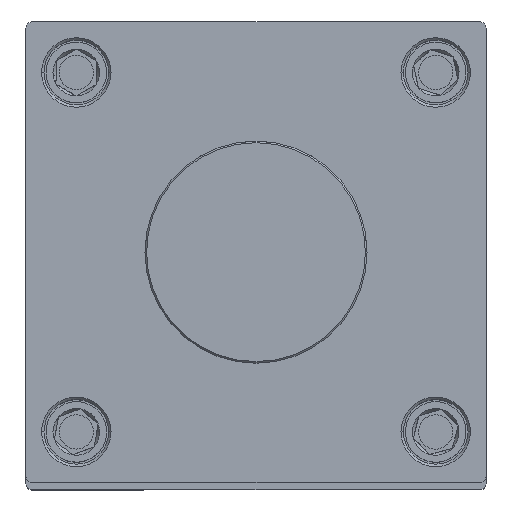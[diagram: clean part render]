
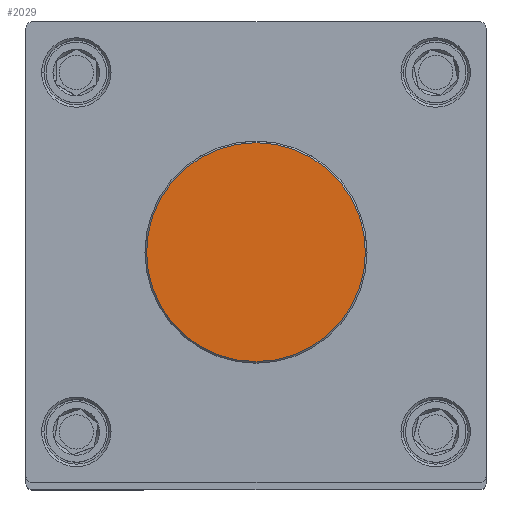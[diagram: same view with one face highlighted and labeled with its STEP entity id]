
A CAD part, top view. The second image highlights one B-rep face of the part: STEP entity #2029.
In plain terms, the highlighted planar face has unit normal (0, 0, 1).
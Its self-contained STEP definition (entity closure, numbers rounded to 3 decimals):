
#1260 = CIRCLE ( 'NONE', #5563, 27.1 ) ;
#1283 = EDGE_CURVE ( 'NONE', #5715, #2518, #1260, .T. ) ;
#1285 = AXIS2_PLACEMENT_3D ( 'NONE', #5013, #4888, #4796 ) ;
#2029 = ADVANCED_FACE ( 'NONE', ( #2387 ), #5115, .T. ) ;
#2387 = FACE_OUTER_BOUND ( 'NONE', #8224, .T. ) ;
#2518 = VERTEX_POINT ( 'NONE', #7113 ) ;
#2566 = ORIENTED_EDGE ( 'NONE', *, *, #1283, .F. ) ;
#2946 = DIRECTION ( 'NONE',  ( 0., 1., 0. ) ) ;
#2960 = DIRECTION ( 'NONE',  ( 0., 0., -1. ) ) ;
#2972 = CARTESIAN_POINT ( 'NONE',  ( 0., 0., 42. ) ) ;
#3791 = ORIENTED_EDGE ( 'NONE', *, *, #8488, .F. ) ;
#4258 = CIRCLE ( 'NONE', #5187, 27.1 ) ;
#4796 = DIRECTION ( 'NONE',  ( 0., -1., 0. ) ) ;
#4871 = CARTESIAN_POINT ( 'NONE',  ( 0., 27.1, 42. ) ) ;
#4888 = DIRECTION ( 'NONE',  ( 0., 0., 1. ) ) ;
#5013 = CARTESIAN_POINT ( 'NONE',  ( 0., 27.1, 42. ) ) ;
#5115 = PLANE ( 'NONE',  #1285 ) ;
#5187 = AXIS2_PLACEMENT_3D ( 'NONE', #5211, #5202, #5192 ) ;
#5192 = DIRECTION ( 'NONE',  ( 0., 1., 0. ) ) ;
#5202 = DIRECTION ( 'NONE',  ( 0., 0., -1. ) ) ;
#5211 = CARTESIAN_POINT ( 'NONE',  ( 0., 0., 42. ) ) ;
#5563 = AXIS2_PLACEMENT_3D ( 'NONE', #2972, #2960, #2946 ) ;
#5715 = VERTEX_POINT ( 'NONE', #4871 ) ;
#7113 = CARTESIAN_POINT ( 'NONE',  ( 0., -27.1, 42. ) ) ;
#8224 = EDGE_LOOP ( 'NONE', ( #2566, #3791 ) ) ;
#8488 = EDGE_CURVE ( 'NONE', #2518, #5715, #4258, .T. ) ;
